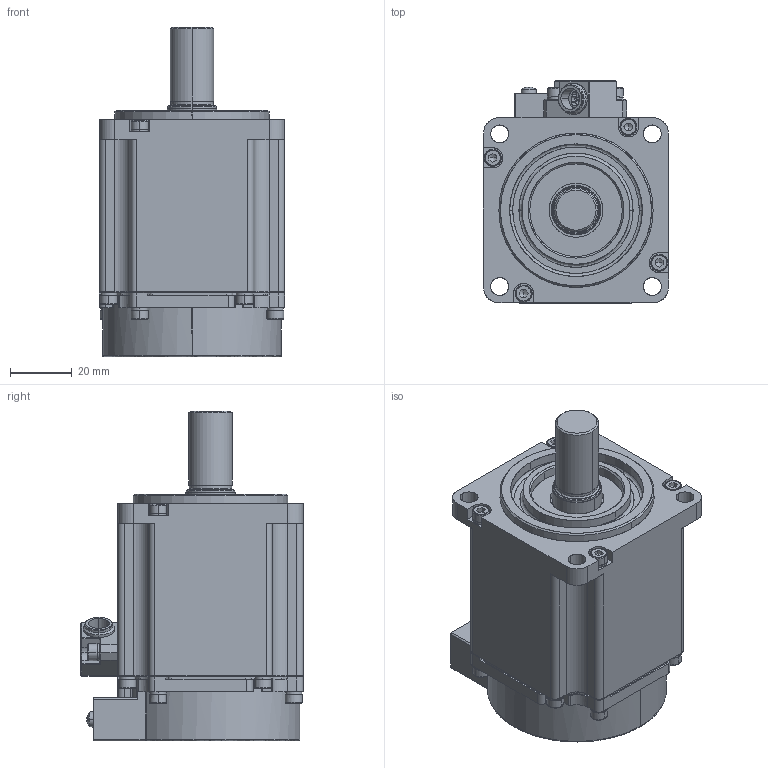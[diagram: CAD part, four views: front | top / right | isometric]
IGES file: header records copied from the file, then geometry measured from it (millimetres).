
Start section: SolidWorks IGES file using analytic representation for surfaces
Global section: file name: C:\景翔\圖面\20200518_SMESMP  馬達尺寸錯誤修正\(NEW)自行修改\3D-IGS\SME-H020.IGS; native system: SolidWorks 2016; preprocessor: SolidWorks 2016; author: 13521; date: 200518.162457; units: millimetre
Bounding box: 60 x 72 x 107 mm (x, y, z)
Surface area: 44639 mm2 (no closed solid volume)
Topology: 0 solids, 0 shells, 1152 faces, 15090 edges, 15027 vertices
Faces by surface type: revolution 600, bspline 552
